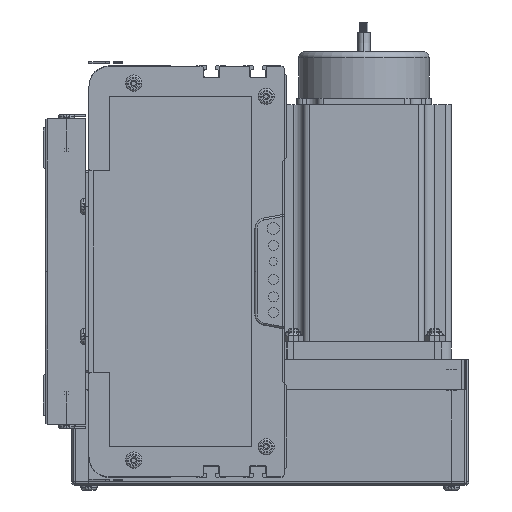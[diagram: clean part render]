
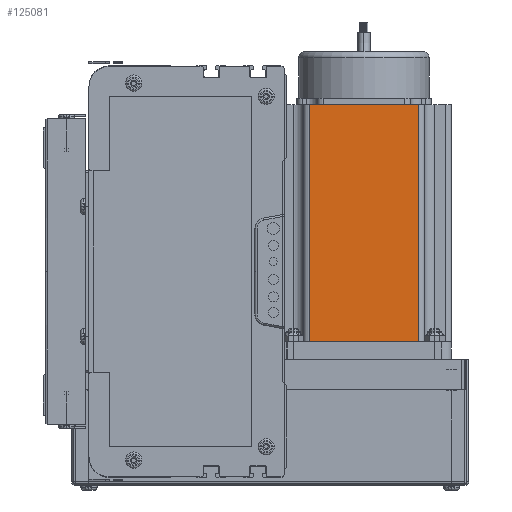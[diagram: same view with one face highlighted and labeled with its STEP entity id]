
A CAD part, left-side view. The second image highlights one B-rep face of the part: STEP entity #125081.
In plain terms, the highlighted planar face has unit normal (-1, 0, 0) as drawn and (0, -1, 0) by its records, which use the part's own axes.
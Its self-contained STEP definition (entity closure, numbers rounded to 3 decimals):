
#37244 = CARTESIAN_POINT ( 'NONE',  ( 0., 0., 0. ) ) ;
#37246 = LINE ( 'NONE', #37244, #37333 ) ;
#37331 = DIRECTION ( 'NONE',  ( 1., 0., 0. ) ) ;
#37333 = VECTOR ( 'NONE', #37331, 1000. ) ;
#38529 = CARTESIAN_POINT ( 'NONE',  ( 16.16, 0., 0. ) ) ;
#38941 = DIRECTION ( 'NONE',  ( 0., 0., -1. ) ) ;
#38942 = VECTOR ( 'NONE', #38941, 1000. ) ;
#38946 = CARTESIAN_POINT ( 'NONE',  ( 16.16, 0., 116.5 ) ) ;
#38989 = LINE ( 'NONE', #38946, #38942 ) ;
#39000 = CARTESIAN_POINT ( 'NONE',  ( 16.16, 0., 116.5 ) ) ;
#39018 = CARTESIAN_POINT ( 'NONE',  ( 69.74, 0., 116.5 ) ) ;
#39024 = DIRECTION ( 'NONE',  ( 0., 0., 1. ) ) ;
#39026 = DIRECTION ( 'NONE',  ( 0., 1., 0. ) ) ;
#39028 = CARTESIAN_POINT ( 'NONE',  ( 0., 0., 116.5 ) ) ;
#39031 = AXIS2_PLACEMENT_3D ( 'NONE', #39028, #39026, #39024 ) ;
#39052 = PLANE ( 'NONE',  #39031 ) ;
#39054 = CARTESIAN_POINT ( 'NONE',  ( 69.74, 0., 0. ) ) ;
#39094 = FACE_OUTER_BOUND ( 'NONE', #124968, .T. ) ;
#39158 = DIRECTION ( 'NONE',  ( 0., 0., 1. ) ) ;
#39159 = VECTOR ( 'NONE', #39158, 1000. ) ;
#39164 = CARTESIAN_POINT ( 'NONE',  ( 69.74, 0., 116.5 ) ) ;
#39168 = LINE ( 'NONE', #39164, #39159 ) ;
#39173 = DIRECTION ( 'NONE',  ( 1., 0., 0. ) ) ;
#39175 = VECTOR ( 'NONE', #39173, 1000. ) ;
#39178 = CARTESIAN_POINT ( 'NONE',  ( 0., 0., 116.5 ) ) ;
#39235 = LINE ( 'NONE', #39178, #39175 ) ;
#124726 = EDGE_CURVE ( 'NONE', #124972, #125082, #37246, .T. ) ;
#124968 = EDGE_LOOP ( 'NONE', ( #125089, #125087, #124971, #125131 ) ) ;
#124971 = ORIENTED_EDGE ( 'NONE', *, *, #125095, .F. ) ;
#124972 = VERTEX_POINT ( 'NONE', #38529 ) ;
#125057 = VERTEX_POINT ( 'NONE', #39000 ) ;
#125059 = EDGE_CURVE ( 'NONE', #125057, #124972, #38989, .T. ) ;
#125081 = ADVANCED_FACE ( 'NONE', ( #39094 ), #39052, .F. ) ;
#125082 = VERTEX_POINT ( 'NONE', #39054 ) ;
#125083 = VERTEX_POINT ( 'NONE', #39018 ) ;
#125087 = ORIENTED_EDGE ( 'NONE', *, *, #125097, .T. ) ;
#125089 = ORIENTED_EDGE ( 'NONE', *, *, #124726, .T. ) ;
#125095 = EDGE_CURVE ( 'NONE', #125057, #125083, #39235, .T. ) ;
#125097 = EDGE_CURVE ( 'NONE', #125082, #125083, #39168, .T. ) ;
#125131 = ORIENTED_EDGE ( 'NONE', *, *, #125059, .T. ) ;
